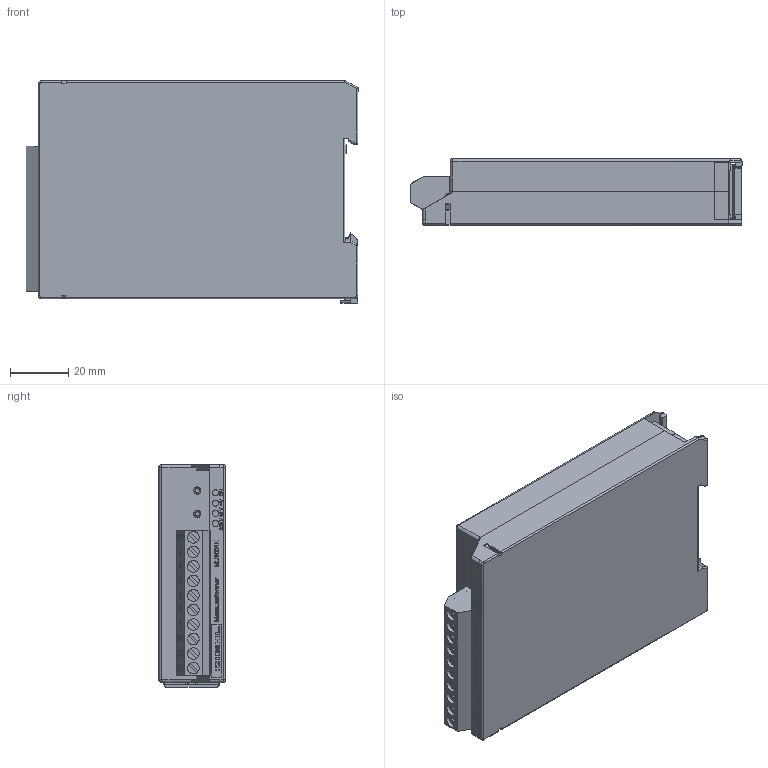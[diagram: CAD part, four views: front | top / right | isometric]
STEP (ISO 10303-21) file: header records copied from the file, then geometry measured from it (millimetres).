
FILE_DESCRIPTION (( 'STEP AP214' ), '1' );
FILE_NAME ('12370-1904-00_MU1001K_3D.STEP', '2019-01-22T06:36:28', ( '' ), ( '' ), 'SwSTEP 2.0', 'SolidWorks 2018', '' );
FILE_SCHEMA (( 'AUTOMOTIVE_DESIGN' ));
Length unit declared in the file: millimetre
Products named in the file (12): pan head cross recess screw_din_ISO 7045 - M3 x 4 - Z --- 4N; K-Riegel^12370-1904-00_MU1001K_3D; Typenschild Klemme 12600-1204-00^12370-1904-00_MU1001K_3D; Typenschild LED 12370-1204-01_MU1001K^12370-1904-00_MU1001K_3D; K-Leiterpklatte 60 lang^12370-1904-00_MU1001K_3D; K-Unterteil 1045 1940 K-UT_3D^12370-1904-00_MU1001K_3D; 12370-1904-00_MU1001K_3D; Klemme 31147110^12370-1904-00_MU1001K_3D; Tasterknöpfe^12370-1904-00_MU1001K_3D; Typenschild Set_Down^12370-1904-00_MU1001K_3D; Typenschild 12370-1206-02_UL_MU1001K^12370-1904-00_MU1001K_3D; K-Deckel 1045 1920^12370-1904-00_MU1001K_3D
Assembly tree (11 placements, depth 2):
  12370-1904-00_MU1001K_3D
    K-Unterteil 1045 1940 K-UT_3D^12370-1904-00_MU1001K_3D
    K-Deckel 1045 1920^12370-1904-00_MU1001K_3D
    K-Leiterpklatte 60 lang^12370-1904-00_MU1001K_3D
    K-Riegel^12370-1904-00_MU1001K_3D
    pan head cross recess screw_din_ISO 7045 - M3 x 4 - Z --- 4N
    Klemme 31147110^12370-1904-00_MU1001K_3D
    Tasterknöpfe^12370-1904-00_MU1001K_3D
    Typenschild Set_Down^12370-1904-00_MU1001K_3D
    Typenschild LED 12370-1204-01_MU1001K^12370-1904-00_MU1001K_3D
    Typenschild Klemme 12600-1204-00^12370-1904-00_MU1001K_3D
    Typenschild 12370-1206-02_UL_MU1001K^12370-1904-00_MU1001K_3D
Bounding box: 114.29 x 22.8 x 76.65 mm (x, y, z)
Volume: 50148.3 mm3; surface area: 63550.7 mm2
Topology: 15 solids, 490 shells, 1339 faces, 6121 edges, 5325 vertices
Faces by surface type: plane 957, cylinder 222, bspline 66, cone 40, torus 29, sphere 25
Entity records: 75124 total; most frequent: CARTESIAN_POINT 25279, ORIENTED_EDGE 8200, DIRECTION 7931, EDGE_CURVE 6097, VERTEX_POINT 5325, LINE 4239, VECTOR 4239, AXIS2_PLACEMENT_3D 1846
